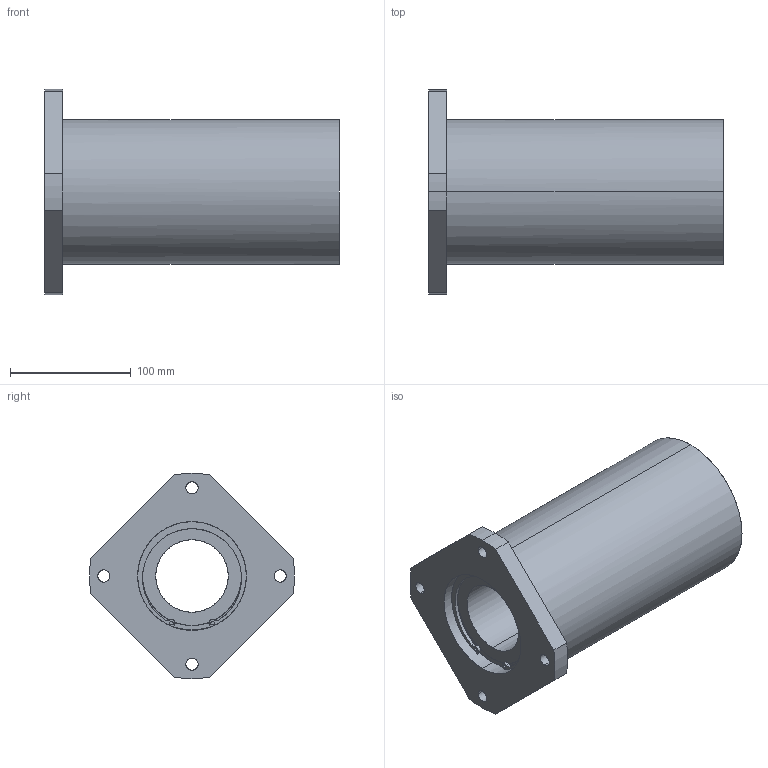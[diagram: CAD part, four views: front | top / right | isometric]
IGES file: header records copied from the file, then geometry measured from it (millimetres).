
Global section: file name: No Iges File Name specified; native system: AutoDesk Inventor R10; preprocessor: AutoDesk Inventor Iges Exporter R10; author: No Author specified; organization: No Organization specified; date: 20101214.140031; units: millimetre
Bounding box: 244 x 169.69 x 170 mm (x, y, z)
Surface area: 193086.8 mm2 (no closed solid volume)
Topology: 0 solids, 0 shells, 119 faces, 820 edges, 820 vertices
Faces by surface type: bspline 119
